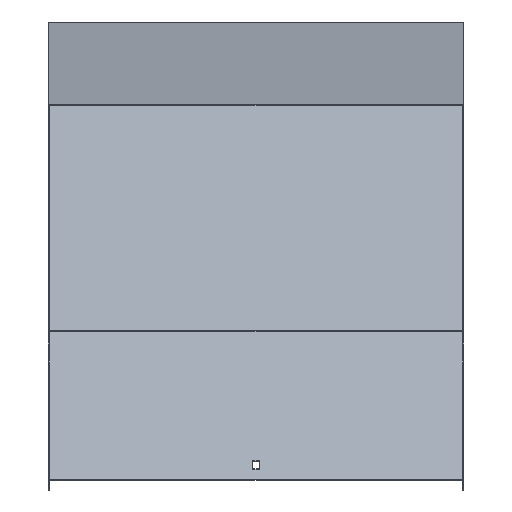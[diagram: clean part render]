
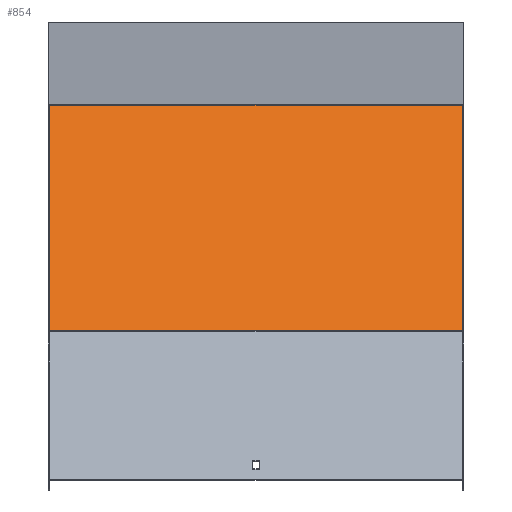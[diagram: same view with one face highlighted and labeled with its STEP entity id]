
A CAD part, top view. The second image highlights one B-rep face of the part: STEP entity #854.
In plain terms, the highlighted planar face has unit normal (0, 0.707, 0.707).
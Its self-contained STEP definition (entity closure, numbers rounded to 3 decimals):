
#23 = EDGE_LOOP ( 'NONE', ( #515, #703, #565, #835 ) ) ;
#27 = AXIS2_PLACEMENT_3D ( 'NONE', #237, #535, #72 ) ;
#58 = DIRECTION ( 'NONE',  ( 0., -0.707, 0.707 ) ) ;
#72 = DIRECTION ( 'NONE',  ( 0., 0.707, -0.707 ) ) ;
#149 = CARTESIAN_POINT ( 'NONE',  ( -201.5, -280.395, 686.933 ) ) ;
#167 = EDGE_CURVE ( 'NONE', #421, #243, #430, .T. ) ;
#199 = DIRECTION ( 'NONE',  ( 0., -0.707, 0.707 ) ) ;
#237 = CARTESIAN_POINT ( 'NONE',  ( 201.5, -64.28, 470.818 ) ) ;
#243 = VERTEX_POINT ( 'NONE', #380 ) ;
#297 = CARTESIAN_POINT ( 'NONE',  ( 201.5, -280.395, 686.933 ) ) ;
#316 = EDGE_CURVE ( 'NONE', #421, #798, #894, .T. ) ;
#326 = EDGE_CURVE ( 'NONE', #243, #983, #827, .T. ) ;
#375 = LINE ( 'NONE', #596, #895 ) ;
#376 = CARTESIAN_POINT ( 'NONE',  ( 201.5, -60.491, 467.028 ) ) ;
#380 = CARTESIAN_POINT ( 'NONE',  ( -201.5, -60.491, 467.028 ) ) ;
#416 = VECTOR ( 'NONE', #58, 1000. ) ;
#419 = CARTESIAN_POINT ( 'NONE',  ( -201.5, -64.28, 470.818 ) ) ;
#421 = VERTEX_POINT ( 'NONE', #376 ) ;
#430 = LINE ( 'NONE', #641, #752 ) ;
#515 = ORIENTED_EDGE ( 'NONE', *, *, #326, .T. ) ;
#535 = DIRECTION ( 'NONE',  ( 0., -0.707, -0.707 ) ) ;
#539 = PLANE ( 'NONE',  #27 ) ;
#565 = ORIENTED_EDGE ( 'NONE', *, *, #316, .F. ) ;
#587 = DIRECTION ( 'NONE',  ( -1., 0., 0. ) ) ;
#595 = EDGE_CURVE ( 'NONE', #798, #983, #375, .T. ) ;
#596 = CARTESIAN_POINT ( 'NONE',  ( 201.5, -280.395, 686.933 ) ) ;
#618 = FACE_OUTER_BOUND ( 'NONE', #23, .T. ) ;
#641 = CARTESIAN_POINT ( 'NONE',  ( 201.5, -60.491, 467.028 ) ) ;
#677 = DIRECTION ( 'NONE',  ( -1., 0., 0. ) ) ;
#703 = ORIENTED_EDGE ( 'NONE', *, *, #595, .F. ) ;
#708 = VECTOR ( 'NONE', #199, 1000. ) ;
#752 = VECTOR ( 'NONE', #587, 1000. ) ;
#798 = VERTEX_POINT ( 'NONE', #297 ) ;
#827 = LINE ( 'NONE', #419, #416 ) ;
#835 = ORIENTED_EDGE ( 'NONE', *, *, #167, .T. ) ;
#854 = ADVANCED_FACE ( 'NONE', ( #618 ), #539, .F. ) ;
#886 = CARTESIAN_POINT ( 'NONE',  ( 201.5, -64.28, 470.818 ) ) ;
#894 = LINE ( 'NONE', #886, #708 ) ;
#895 = VECTOR ( 'NONE', #677, 1000. ) ;
#983 = VERTEX_POINT ( 'NONE', #149 ) ;
